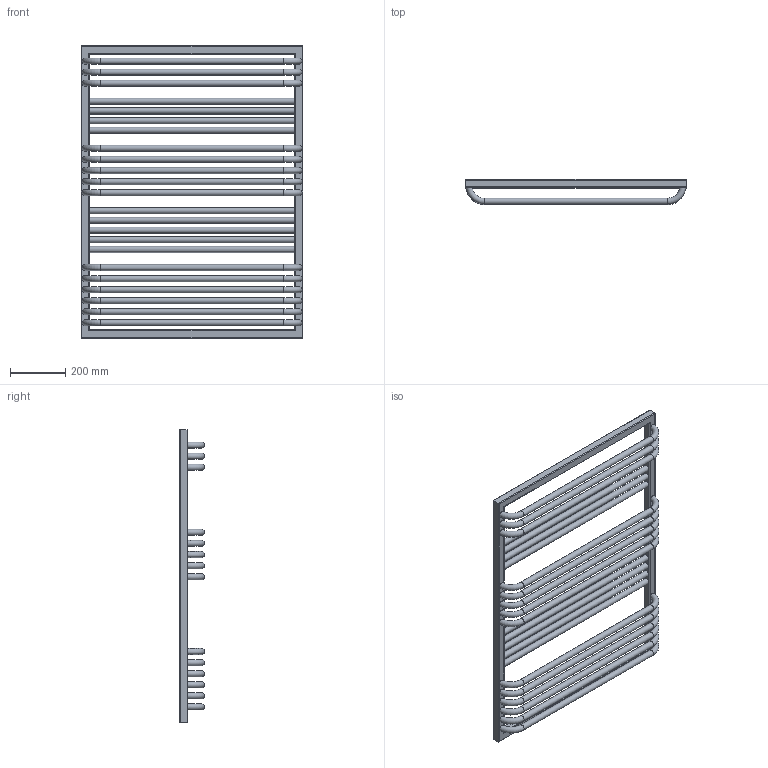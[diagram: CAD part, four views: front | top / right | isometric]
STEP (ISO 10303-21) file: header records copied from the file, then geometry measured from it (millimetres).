
FILE_DESCRIPTION((''),'2;1');
FILE_NAME('Z:\R\G\P\RGPH18 - Grzejnik POC\Work\Inventor\POC 1-6-8 v2.0\Marketing\AutoCad 3D\POC-1055-800-1-6-8.stp','2012-07-12T14:39:34',('KurKa'),(''),'Autodesk Inventor 2012','Autodesk Inventor 2012','');
FILE_SCHEMA(('AUTOMOTIVE_DESIGN { 1 0 10303 214 1 1 1 1 }'));
Length unit declared in the file: millimetre
Products named in the file (1): POC-1055-800-1-6-8
Bounding box: 800 x 90 x 1055 mm (x, y, z)
Volume: 10100741.5 mm3; surface area: 1651559.2 mm2
Topology: 1 solids, 1 shells, 86 faces, 224 edges, 143 vertices
Faces by surface type: cylinder 42, torus 31, plane 13
Full cylindrical faces by diameter (mm): 18.631 x3, 22 x23
Entity records: 3976 total; most frequent: CARTESIAN_POINT 2161, DIRECTION 356, ORIENTED_EDGE 278, EDGE_LOOP 194, AXIS2_PLACEMENT_3D 158, EDGE_CURVE 139, VERTEX_POINT 115, FACE_BOUND 108
